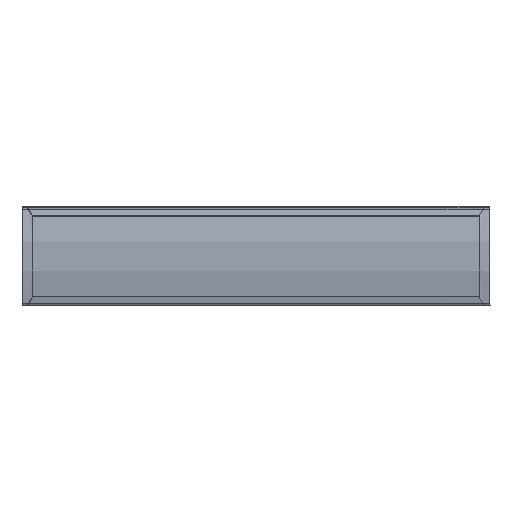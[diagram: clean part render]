
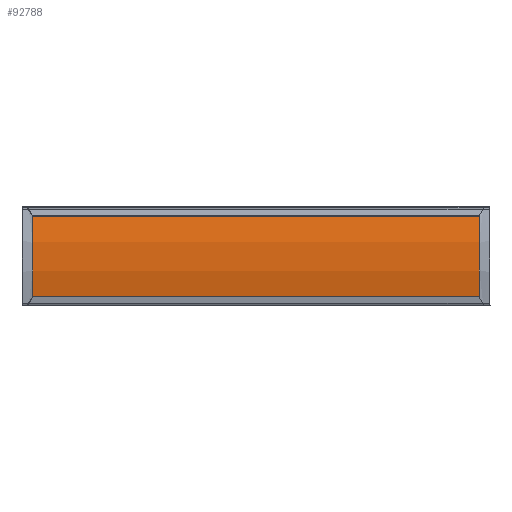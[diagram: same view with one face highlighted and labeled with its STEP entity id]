
A CAD part, top view. The second image highlights one B-rep face of the part: STEP entity #92788.
In plain terms, the highlighted cylindrical face has radius 339.043 mm (diameter 678.086 mm), a partial arc.
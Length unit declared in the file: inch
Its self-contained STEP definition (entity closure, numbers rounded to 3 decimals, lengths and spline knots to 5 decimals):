
#1307 = CIRCLE ( 'NONE', #116497, 13.34815 ) ;
#5784 = ORIENTED_EDGE ( 'NONE', *, *, #8164, .F. ) ;
#8164 = EDGE_CURVE ( 'NONE', #145116, #21143, #67630, .T. ) ;
#14905 = DIRECTION ( 'NONE',  ( 0., 0., -1. ) ) ;
#21143 = VERTEX_POINT ( 'NONE', #153570 ) ;
#24554 = AXIS2_PLACEMENT_3D ( 'NONE', #79786, #14905, #172569 ) ;
#29086 = ORIENTED_EDGE ( 'NONE', *, *, #177109, .T. ) ;
#34005 = ORIENTED_EDGE ( 'NONE', *, *, #164436, .T. ) ;
#34689 = CARTESIAN_POINT ( 'NONE',  ( 5.9343, 5.34872, 16.44 ) ) ;
#38740 = DIRECTION ( 'NONE',  ( 0., 1., 0. ) ) ;
#46584 = DIRECTION ( 'NONE',  ( 0., 0., 1. ) ) ;
#54217 = AXIS2_PLACEMENT_3D ( 'NONE', #181762, #46584, #81613 ) ;
#59176 = CARTESIAN_POINT ( 'NONE',  ( 5.9343, 5.34872, 0. ) ) ;
#59330 = VERTEX_POINT ( 'NONE', #159432 ) ;
#64046 = VECTOR ( 'NONE', #159576, 39.37008 ) ;
#67630 = LINE ( 'NONE', #34689, #154820 ) ;
#70955 = ORIENTED_EDGE ( 'NONE', *, *, #93850, .F. ) ;
#79786 = CARTESIAN_POINT ( 'NONE',  ( 2.77197, -7.61943, 32.88 ) ) ;
#81613 = DIRECTION ( 'NONE',  ( 0., 1., 0. ) ) ;
#90835 = VERTEX_POINT ( 'NONE', #108251 ) ;
#92788 = ADVANCED_FACE ( 'NONE', ( #141645 ), #158111, .T. ) ;
#93850 = EDGE_CURVE ( 'NONE', #21143, #90835, #113521, .T. ) ;
#108251 = CARTESIAN_POINT ( 'NONE',  ( -0.39035, 5.34872, 32.88 ) ) ;
#113521 = CIRCLE ( 'NONE', #54217, 13.34815 ) ;
#116497 = AXIS2_PLACEMENT_3D ( 'NONE', #147994, #132521, #38740 ) ;
#130499 = DIRECTION ( 'NONE',  ( 0., 0., 1. ) ) ;
#132521 = DIRECTION ( 'NONE',  ( 0., 0., 1. ) ) ;
#141645 = FACE_OUTER_BOUND ( 'NONE', #168721, .T. ) ;
#142073 = LINE ( 'NONE', #156509, #64046 ) ;
#145116 = VERTEX_POINT ( 'NONE', #59176 ) ;
#147994 = CARTESIAN_POINT ( 'NONE',  ( 2.77197, -7.61943, 0. ) ) ;
#153570 = CARTESIAN_POINT ( 'NONE',  ( 5.9343, 5.34872, 32.88 ) ) ;
#154820 = VECTOR ( 'NONE', #130499, 39.37008 ) ;
#156509 = CARTESIAN_POINT ( 'NONE',  ( -0.39035, 5.34872, 16.44 ) ) ;
#158111 = CYLINDRICAL_SURFACE ( 'NONE', #24554, 13.34815 ) ;
#159432 = CARTESIAN_POINT ( 'NONE',  ( -0.39035, 5.34872, 0. ) ) ;
#159576 = DIRECTION ( 'NONE',  ( 0., 0., 1. ) ) ;
#164436 = EDGE_CURVE ( 'NONE', #59330, #90835, #142073, .T. ) ;
#168721 = EDGE_LOOP ( 'NONE', ( #70955, #5784, #29086, #34005 ) ) ;
#172569 = DIRECTION ( 'NONE',  ( 0., 1., 0. ) ) ;
#177109 = EDGE_CURVE ( 'NONE', #145116, #59330, #1307, .T. ) ;
#181762 = CARTESIAN_POINT ( 'NONE',  ( 2.77197, -7.61943, 32.88 ) ) ;
